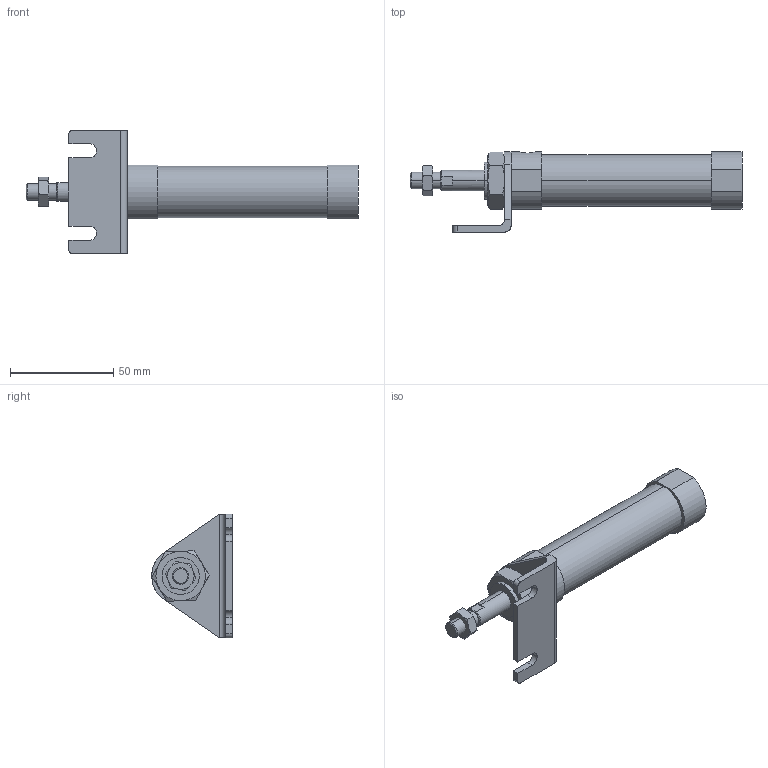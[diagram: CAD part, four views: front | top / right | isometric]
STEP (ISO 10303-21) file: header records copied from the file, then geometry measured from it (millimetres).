
FILE_DESCRIPTION (( 'STEP AP203' ), '1' );
FILE_NAME ('JGND0-20-15-L.STEP', '2016-08-04T02:02:39', ( '' ), ( '' ), 'SwSTEP 2.0', 'SolidWorks 2014', '' );
FILE_SCHEMA (( 'CONFIG_CONTROL_DESIGN' ));
Length unit declared in the file: millimetre
Products named in the file (5): J#0-20-15(P); JGND0-20-15-L; J#2-20-L
Assembly tree (4 placements, depth 2):
  JGND0-20-15-L
    J#0-20-15(P)
    (unnamed)
    (unnamed)
    J#2-20-L
Bounding box: 161 x 39 x 60 mm (x, y, z)
Volume: 74471.1 mm3; surface area: 20874 mm2
Topology: 4 solids, 4 shells, 108 faces, 249 edges, 156 vertices
Faces by surface type: plane 48, cylinder 32, torus 24, cone 4
Entity records: 3864 total; most frequent: CARTESIAN_POINT 910, DIRECTION 519, ORIENTED_EDGE 498, EDGE_CURVE 249, AXIS2_PLACEMENT_3D 209, VERTEX_POINT 156, EDGE_LOOP 121, ADVANCED_FACE 108
